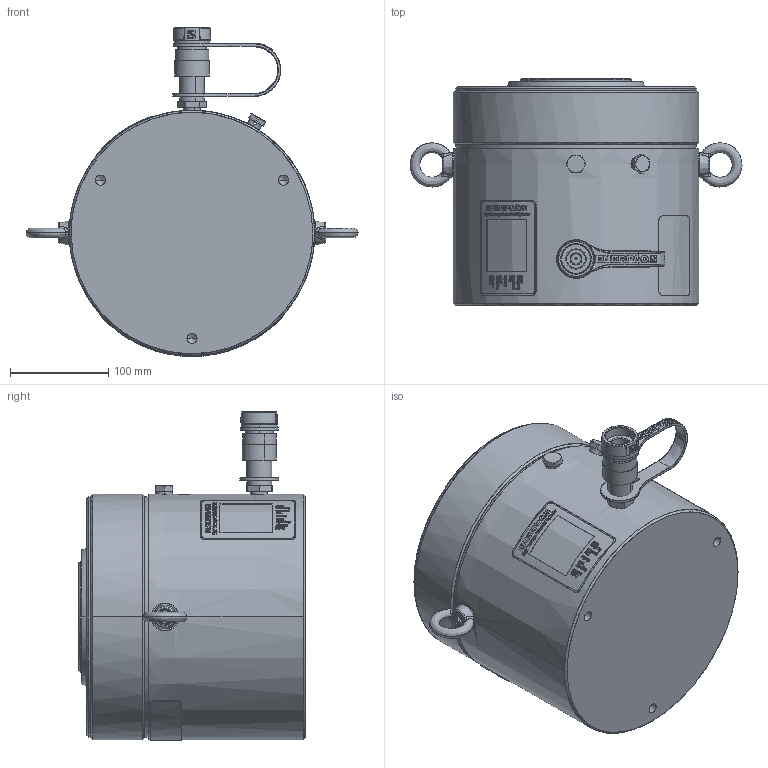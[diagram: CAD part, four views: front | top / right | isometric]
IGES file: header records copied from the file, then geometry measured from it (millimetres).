
Start section:  PTC IGES file: hcg2002.igs
Global section: file name: hcg2002.igs; native system: Creo Parametric by PTC Inc.; preprocessor: 2015290; author: Akhilesh.Subrahmanya; organization: Unknown; date: 20170707.142509; units: millimetre
Bounding box: 337.96 x 231 x 334.49 mm (x, y, z)
Surface area: 540667 mm2 (no closed solid volume)
Topology: 0 solids, 0 shells, 705 faces, 6116 edges, 6101 vertices
Faces by surface type: revolution 428, bspline 272, extrusion 5
